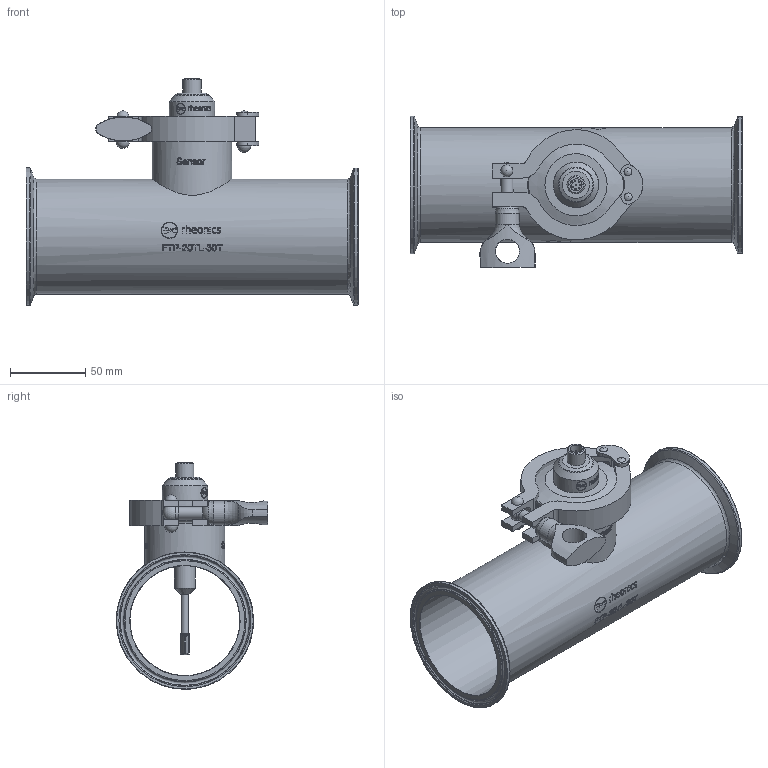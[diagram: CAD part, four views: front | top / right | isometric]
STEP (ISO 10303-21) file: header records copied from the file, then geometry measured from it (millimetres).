
FILE_DESCRIPTION(/* description */ ('Unknown'),/* implementation_level */ '2;1');
FILE_NAME(/* name */ 'SRD-FTP-20TL-30T',/* time_stamp */ '2024-12-26T12:27:07-05:00',/* author */ ('Unknown'),/* organization */ ('Unknown'),/* preprocessor_version */ 'ST-DEVELOPER v16.7',/* originating_system */ 'Solid Edge',/* authorisation */ 'Unknown');
FILE_SCHEMA (('AUTOMOTIVE_DESIGN {1 0 10303 214 3 1 1}'));
Length unit declared in the file: millimetre
Products named in the file (5): SRD-FTP-20TL-30T; FTP-20TL-30T; TC-20T-Seal; SRD-HD-X3-A95-B20T; TC_2inch_Seal_Clamp
Assembly tree (4 placements, depth 2):
  SRD-FTP-20TL-30T
    FTP-20TL-30T
    TC-20T-Seal
    SRD-HD-X3-A95-B20T
    TC_2inch_Seal_Clamp
Bounding box: 220 x 100.38 x 150.15 mm (x, y, z)
Volume: 199992.2 mm3; surface area: 158903.7 mm2
Topology: 4 solids, 4 shells, 817 faces, 2074 edges, 1348 vertices
Faces by surface type: bspline 323, plane 251, cylinder 156, torus 46, cone 26, sphere 15
Full cylindrical faces by diameter (mm): 0.8 x8, 5.019 x1, 7.938 x1, 8 x1, 12 x1, 13.9 x1, 15.873 x1, 16 x1, 30 x2, 50 x1, 50.2 x1, 53 x1, 64 x3, 72.9 x1, 76.2 x1, 91 x2
Entity records: 57288 total; most frequent: CARTESIAN_POINT 35070, ORIENTED_EDGE 3826, DIRECTION 2632, EDGE_CURVE 1913, VERTEX_POINT 1312, EDGE_LOOP 1041, FACE_BOUND 1041, AXIS2_PLACEMENT_3D 935
